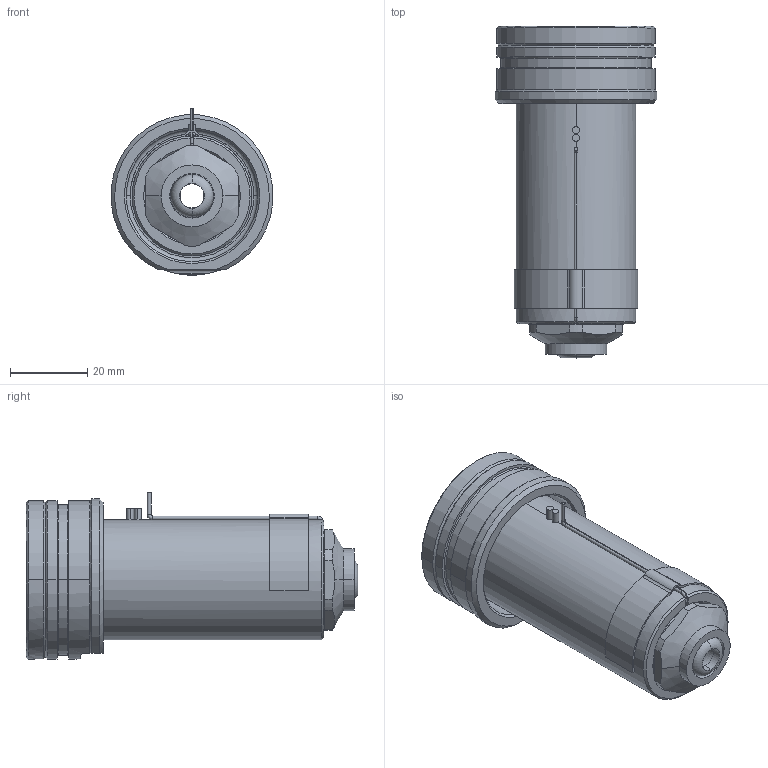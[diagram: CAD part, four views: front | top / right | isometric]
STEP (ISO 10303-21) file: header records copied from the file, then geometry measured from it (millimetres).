
FILE_DESCRIPTION((''),'2;1');
FILE_NAME('EO12_VG-BL_WR_070_SW','2024-02-19T13:15:36',('sundharh'),(''),'CREO PARAMETRIC BY PTC INC, 2023154','CREO PARAMETRIC BY PTC INC, 2023154','');
FILE_SCHEMA(('CONFIG_CONTROL_DESIGN'));
Length unit declared in the file: millimetre
Products named in the file (1): EO12_VG-BL_WR_070_SW
Bounding box: 41.85 x 85.8 x 43 mm (x, y, z)
Volume: 60483.4 mm3; surface area: 19308.3 mm2
Topology: 2 solids, 3 shells, 205 faces, 508 edges, 307 vertices
Faces by surface type: cylinder 73, plane 47, cone 39, torus 35, bspline 9, sphere 2
Entity records: 6905 total; most frequent: CARTESIAN_POINT 1929, DIRECTION 1108, ORIENTED_EDGE 1012, EDGE_CURVE 506, AXIS2_PLACEMENT_3D 467, VERTEX_POINT 307, CIRCLE 271, EDGE_LOOP 221
